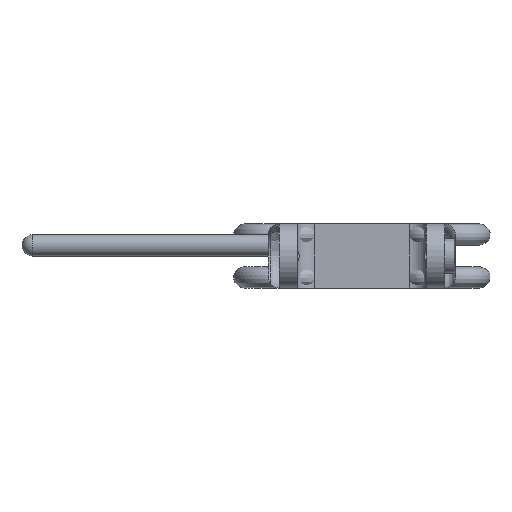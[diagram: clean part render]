
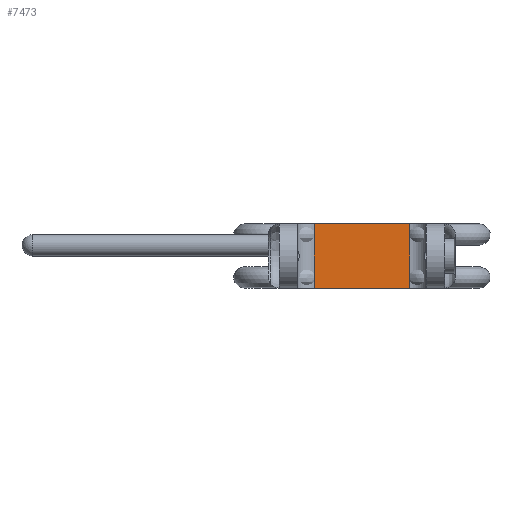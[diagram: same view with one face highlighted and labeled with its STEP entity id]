
A CAD part, front view. The second image highlights one B-rep face of the part: STEP entity #7473.
In plain terms, the highlighted planar face has unit normal (0, -1, 0).
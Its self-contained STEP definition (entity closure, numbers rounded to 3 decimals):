
#1054 = PLANE('',#1055);
#1055 = AXIS2_PLACEMENT_3D('',#1056,#1057,#1058);
#1056 = CARTESIAN_POINT('',(-17.5,111.316,
    0.));
#1057 = DIRECTION('',(0.,0.,-1.));
#1058 = DIRECTION('',(0.,-1.,0.));
#1132 = PLANE('',#1133);
#1133 = AXIS2_PLACEMENT_3D('',#1134,#1135,#1136);
#1134 = CARTESIAN_POINT('',(-17.5,111.316,
    -12.));
#1135 = DIRECTION('',(0.,0.,1.));
#1136 = DIRECTION('',(0.,1.,0.));
#4083 = VERTEX_POINT('',#4084);
#4084 = CARTESIAN_POINT('',(-8.95,84.166,
    0.));
#4099 = CYLINDRICAL_SURFACE('',#4100,3.2);
#4100 = AXIS2_PLACEMENT_3D('',#4101,#4102,#4103);
#4101 = CARTESIAN_POINT('',(-8.95,80.966,
    -12.));
#4102 = DIRECTION('',(0.,0.,-1.));
#4103 = DIRECTION('',(0.,-1.,0.));
#4111 = EDGE_CURVE('',#4112,#4083,#4114,.T.);
#4112 = VERTEX_POINT('',#4113);
#4113 = CARTESIAN_POINT('',(8.95,84.166,
    0.));
#4114 = SURFACE_CURVE('',#4115,(#4119,#4126),.PCURVE_S1.);
#4115 = LINE('',#4116,#4117);
#4116 = CARTESIAN_POINT('',(-12.05,84.166,
    0.));
#4117 = VECTOR('',#4118,1.);
#4118 = DIRECTION('',(-1.,0.,0.));
#4119 = PCURVE('',#1054,#4120);
#4120 = DEFINITIONAL_REPRESENTATION('',(#4121),#4125);
#4121 = LINE('',#4122,#4123);
#4122 = CARTESIAN_POINT('',(27.15,-5.45));
#4123 = VECTOR('',#4124,1.);
#4124 = DIRECTION('',(0.,1.));
#4125 = ( GEOMETRIC_REPRESENTATION_CONTEXT(2) 
PARAMETRIC_REPRESENTATION_CONTEXT() REPRESENTATION_CONTEXT('2D SPACE',''
  ) );
#4126 = PCURVE('',#4127,#4132);
#4127 = PLANE('',#4128);
#4128 = AXIS2_PLACEMENT_3D('',#4129,#4130,#4131);
#4129 = CARTESIAN_POINT('',(-12.05,84.166,
    -12.));
#4130 = DIRECTION('',(0.,1.,0.));
#4131 = DIRECTION('',(0.,0.,-1.));
#4132 = DEFINITIONAL_REPRESENTATION('',(#4133),#4137);
#4133 = LINE('',#4134,#4135);
#4134 = CARTESIAN_POINT('',(-12.,0.));
#4135 = VECTOR('',#4136,1.);
#4136 = DIRECTION('',(0.,1.));
#4137 = ( GEOMETRIC_REPRESENTATION_CONTEXT(2) 
PARAMETRIC_REPRESENTATION_CONTEXT() REPRESENTATION_CONTEXT('2D SPACE',''
  ) );
#4156 = CYLINDRICAL_SURFACE('',#4157,3.2);
#4157 = AXIS2_PLACEMENT_3D('',#4158,#4159,#4160);
#4158 = CARTESIAN_POINT('',(8.95,80.966,
    -12.));
#4159 = DIRECTION('',(0.,0.,-1.));
#4160 = DIRECTION('',(0.,-1.,0.));
#4946 = VERTEX_POINT('',#4947);
#4947 = CARTESIAN_POINT('',(8.95,84.166,
    -12.));
#4973 = EDGE_CURVE('',#4946,#4974,#4976,.T.);
#4974 = VERTEX_POINT('',#4975);
#4975 = CARTESIAN_POINT('',(-8.95,84.166,
    -12.));
#4976 = SURFACE_CURVE('',#4977,(#4981,#4988),.PCURVE_S1.);
#4977 = LINE('',#4978,#4979);
#4978 = CARTESIAN_POINT('',(-17.5,84.166,
    -12.));
#4979 = VECTOR('',#4980,1.);
#4980 = DIRECTION('',(-1.,0.,0.));
#4981 = PCURVE('',#1132,#4982);
#4982 = DEFINITIONAL_REPRESENTATION('',(#4983),#4987);
#4983 = LINE('',#4984,#4985);
#4984 = CARTESIAN_POINT('',(-27.15,0.));
#4985 = VECTOR('',#4986,1.);
#4986 = DIRECTION('',(0.,1.));
#4987 = ( GEOMETRIC_REPRESENTATION_CONTEXT(2) 
PARAMETRIC_REPRESENTATION_CONTEXT() REPRESENTATION_CONTEXT('2D SPACE',''
  ) );
#4988 = PCURVE('',#4127,#4989);
#4989 = DEFINITIONAL_REPRESENTATION('',(#4990),#4994);
#4990 = LINE('',#4991,#4992);
#4991 = CARTESIAN_POINT('',(0.,5.45));
#4992 = VECTOR('',#4993,1.);
#4993 = DIRECTION('',(0.,1.));
#4994 = ( GEOMETRIC_REPRESENTATION_CONTEXT(2) 
PARAMETRIC_REPRESENTATION_CONTEXT() REPRESENTATION_CONTEXT('2D SPACE',''
  ) );
#7204 = EDGE_CURVE('',#4083,#4974,#7205,.T.);
#7205 = SURFACE_CURVE('',#7206,(#7210,#7217),.PCURVE_S1.);
#7206 = LINE('',#7207,#7208);
#7207 = CARTESIAN_POINT('',(-8.95,84.166,
    -12.));
#7208 = VECTOR('',#7209,1.);
#7209 = DIRECTION('',(0.,0.,-1.));
#7210 = PCURVE('',#4099,#7211);
#7211 = DEFINITIONAL_REPRESENTATION('',(#7212),#7216);
#7212 = LINE('',#7213,#7214);
#7213 = CARTESIAN_POINT('',(3.142,0.));
#7214 = VECTOR('',#7215,1.);
#7215 = DIRECTION('',(0.,1.));
#7216 = ( GEOMETRIC_REPRESENTATION_CONTEXT(2) 
PARAMETRIC_REPRESENTATION_CONTEXT() REPRESENTATION_CONTEXT('2D SPACE',''
  ) );
#7217 = PCURVE('',#4127,#7218);
#7218 = DEFINITIONAL_REPRESENTATION('',(#7219),#7223);
#7219 = LINE('',#7220,#7221);
#7220 = CARTESIAN_POINT('',(0.,-3.1));
#7221 = VECTOR('',#7222,1.);
#7222 = DIRECTION('',(1.,0.));
#7223 = ( GEOMETRIC_REPRESENTATION_CONTEXT(2) 
PARAMETRIC_REPRESENTATION_CONTEXT() REPRESENTATION_CONTEXT('2D SPACE',''
  ) );
#7473 = ADVANCED_FACE('',(#7474),#4127,.F.);
#7474 = FACE_BOUND('',#7475,.T.);
#7475 = EDGE_LOOP('',(#7476,#7477,#7478,#7499));
#7476 = ORIENTED_EDGE('',*,*,#7204,.T.);
#7477 = ORIENTED_EDGE('',*,*,#4973,.F.);
#7478 = ORIENTED_EDGE('',*,*,#7479,.F.);
#7479 = EDGE_CURVE('',#4112,#4946,#7480,.T.);
#7480 = SURFACE_CURVE('',#7481,(#7485,#7492),.PCURVE_S1.);
#7481 = LINE('',#7482,#7483);
#7482 = CARTESIAN_POINT('',(8.95,84.166,
    -12.));
#7483 = VECTOR('',#7484,1.);
#7484 = DIRECTION('',(0.,0.,-1.));
#7485 = PCURVE('',#4127,#7486);
#7486 = DEFINITIONAL_REPRESENTATION('',(#7487),#7491);
#7487 = LINE('',#7488,#7489);
#7488 = CARTESIAN_POINT('',(0.,-21.));
#7489 = VECTOR('',#7490,1.);
#7490 = DIRECTION('',(1.,0.));
#7491 = ( GEOMETRIC_REPRESENTATION_CONTEXT(2) 
PARAMETRIC_REPRESENTATION_CONTEXT() REPRESENTATION_CONTEXT('2D SPACE',''
  ) );
#7492 = PCURVE('',#4156,#7493);
#7493 = DEFINITIONAL_REPRESENTATION('',(#7494),#7498);
#7494 = LINE('',#7495,#7496);
#7495 = CARTESIAN_POINT('',(3.142,0.));
#7496 = VECTOR('',#7497,1.);
#7497 = DIRECTION('',(0.,1.));
#7498 = ( GEOMETRIC_REPRESENTATION_CONTEXT(2) 
PARAMETRIC_REPRESENTATION_CONTEXT() REPRESENTATION_CONTEXT('2D SPACE',''
  ) );
#7499 = ORIENTED_EDGE('',*,*,#4111,.T.);
